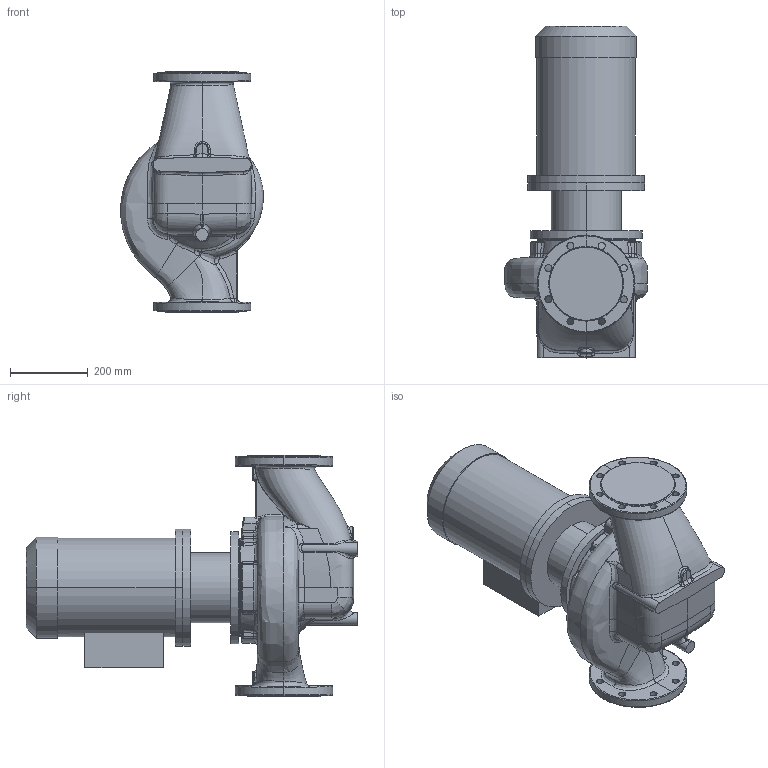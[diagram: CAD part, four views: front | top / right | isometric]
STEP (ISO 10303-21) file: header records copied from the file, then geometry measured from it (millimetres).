
FILE_DESCRIPTION (( 'STEP AP214' ), '1' );
FILE_NAME ('KRL 125-200-4-5,5.STEP', '2026-04-03T05:59:18', ( '' ), ( '' ), 'SwSTEP 2.0', 'SolidWorks 2016', '' );
FILE_SCHEMA (( 'AUTOMOTIVE_DESIGN' ));
Length unit declared in the file: millimetre
Products named in the file (1): KRL 125-200-4-5,5
Bounding box: 366.64 x 852.3 x 620 mm (x, y, z)
Volume: 57691193.1 mm3; surface area: 1744495 mm2
Topology: 4 solids, 4 shells, 635 faces, 1534 edges, 912 vertices
Faces by surface type: bspline 312, cylinder 163, plane 92, torus 29, cone 24, sphere 15
Entity records: 63911 total; most frequent: CARTESIAN_POINT 44869, ORIENTED_EDGE 3042, DIRECTION 1803, EDGE_CURVE 1521, VERTEX_POINT 912, AXIS2_PLACEMENT_3D 766, EDGE_LOOP 685, UNCERTAINTY_MEASURE_WITH_UNIT 641
